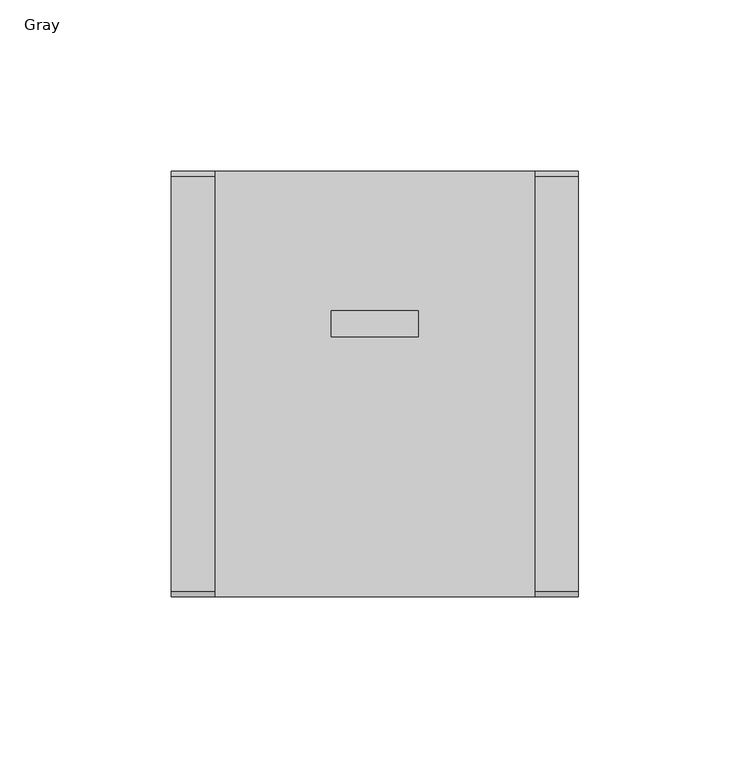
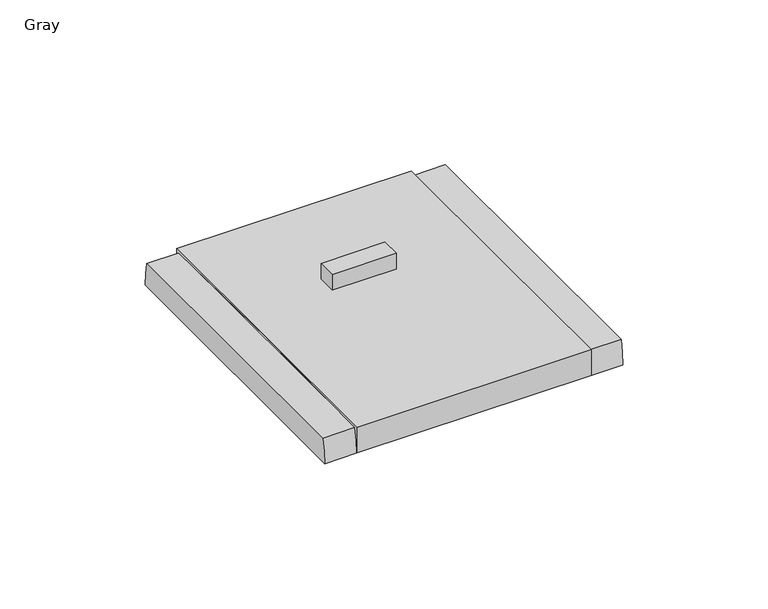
"""IFC4 building model written with IfcOpenShell, lengths in millimetres: proxy geometry, Switch-Pass_And_Seymour-Incandescent_Dimmer : Gray."""

from ifc_helpers import new_model, si_unit, frame, origin, place, context, project, spatial, polyline, circle_curve, outline, extrude, source, transform, mapped, element, save
from ifc_brep_helpers import plane_surface, cylinder_surface, advanced_brep


def gray_b8622a6b(model_context):
    return source(origin(), model_context, "Body", "SolidModel", [
        extrude(outline(polyline([(12.7, 21.336), (12.7, 13.716), (-12.7, 13.716), (-12.7, 21.336), (12.7, 21.336)])), frame((0.0, 0.0, 10.922), z_axis=(0.0, 0.0, 1.0), x_axis=(1.0, 0.0, 0.0)), (0.0, 0.0, 1.0), 6.604),
        advanced_brep(
        [(46.609, 61.976, 0.0), (46.609, 61.976, 10.922), (46.609, 0.0, 10.922), (46.609, 60.6541131, 9.9488894), (46.609, -61.976, 10.922), (46.609, -61.976, 0.0), (46.609, -60.6541131, 9.9488894), (-46.609, -61.976, 0.0), (-46.609, -61.976, 10.922), (-46.609, 0.0, 10.922), (-46.609, -60.6541131, 9.9488894), (-46.609, 61.976, 10.922), (-46.609, 61.976, 0.0), (-46.609, 60.6541131, 9.9488894), (-59.309, -61.976, 0.0), (-59.309, 61.976, 0.0), (59.309, 61.976, 0.0), (59.309, -61.976, 0.0), (59.309, -60.6541131, 9.9488894), (59.309, 60.6541131, 9.9488894), (-59.309, -60.6541131, 9.9488894), (-59.309, 60.6541131, 9.9488894)],
        [
            (0, 1),
            (1, 2),
            (2, 3, circle_curve(frame((46.609, 0.0, -1879.854), z_axis=(-1.0, 0.0, 0.0), x_axis=(0.0, 1.0, 0.0)), 1890.776)),
            (3, 0, circle_curve(frame((46.609, 23.876, 0.0), z_axis=(-1.0, 0.0, 0.0), x_axis=(0.0, 1.0, 0.0)), 38.1)),
            (4, 5),
            (5, 6, circle_curve(frame((46.609, -23.876, 0.0), z_axis=(-1.0, 0.0, 0.0), x_axis=(0.0, 1.0, 0.0)), 38.1)),
            (6, 2, circle_curve(frame((46.609, 0.0, -1879.854), z_axis=(-1.0, 0.0, 0.0), x_axis=(0.0, 1.0, 0.0)), 1890.776)),
            (2, 4),
            (7, 8),
            (8, 9),
            (9, 10, circle_curve(frame((-46.609, 0.0, -1879.854), z_axis=(1.0, 0.0, 0.0), x_axis=(0.0, 1.0, 0.0)), 1890.776)),
            (10, 7, circle_curve(frame((-46.609, -23.876, 0.0), z_axis=(1.0, 0.0, 0.0), x_axis=(0.0, 1.0, 0.0)), 38.1)),
            (11, 12),
            (12, 13, circle_curve(frame((-46.609, 23.876, 0.0), z_axis=(1.0, 0.0, 0.0), x_axis=(0.0, 1.0, 0.0)), 38.1)),
            (13, 9, circle_curve(frame((-46.609, 0.0, -1879.854), z_axis=(1.0, 0.0, 0.0), x_axis=(0.0, 1.0, 0.0)), 1890.776)),
            (9, 11),
            (5, 7),
            (7, 14),
            (14, 15),
            (15, 12),
            (12, 0),
            (0, 16),
            (16, 17),
            (17, 5),
            (1, 11),
            (8, 4),
            (18, 17, circle_curve(frame((59.309, -23.876, 0.0), z_axis=(1.0, 0.0, 0.0), x_axis=(0.0, 1.0, 0.0)), 38.1)),
            (16, 19, circle_curve(frame((59.309, 23.876, 0.0), z_axis=(1.0, 0.0, 0.0), x_axis=(0.0, 1.0, 0.0)), 38.1)),
            (19, 18, circle_curve(frame((59.309, 0.0, -1879.854), z_axis=(1.0, 0.0, 0.0), x_axis=(0.0, 1.0, 0.0)), 1890.776)),
            (20, 21, circle_curve(frame((-59.309, 0.0, -1879.854), z_axis=(-1.0, 0.0, 0.0), x_axis=(0.0, 1.0, 0.0)), 1890.776)),
            (21, 15, circle_curve(frame((-59.309, 23.876, 0.0), z_axis=(-1.0, 0.0, 0.0), x_axis=(0.0, 1.0, 0.0)), 38.1)),
            (14, 20, circle_curve(frame((-59.309, -23.876, 0.0), z_axis=(-1.0, 0.0, 0.0), x_axis=(0.0, 1.0, 0.0)), 38.1)),
            (18, 6),
            (10, 20),
            (3, 19),
            (21, 13),
        ],
        [
            plane_surface(frame((46.609, 61.976, 10.922), z_axis=(1.0, 0.0, 0.0), x_axis=(0.0, 0.0, 1.0))),
            plane_surface(frame((-46.609, 61.976, 10.922), z_axis=(-1.0, 0.0, 0.0), x_axis=(0.0, 0.0, -1.0))),
            plane_surface(frame((46.609, -61.976, 0.0), z_axis=(0.0, 0.0, -1.0), x_axis=(-1.0, 0.0, 0.0))),
            plane_surface(frame((46.609, 61.976, 10.922), z_axis=(0.0, 0.0, 1.0), x_axis=(-1.0, 0.0, 0.0))),
            plane_surface(frame((46.609, 61.976, 0.0), z_axis=(0.0, 1.0, 0.0), x_axis=(-1.0, 0.0, 0.0))),
            plane_surface(frame((46.609, -61.976, 10.922), z_axis=(0.0, -1.0, 0.0), x_axis=(-1.0, 0.0, 0.0))),
            plane_surface(frame((59.309, 14.224, 0.0), z_axis=(1.0, 0.0, 0.0), x_axis=(0.0, 0.0, 1.0))),
            plane_surface(frame((-59.309, 14.224, 0.0), z_axis=(-1.0, 0.0, 0.0), x_axis=(0.0, 0.0, -1.0))),
            cylinder_surface(frame((-59.309, -23.876, 0.0), z_axis=(1.0, 0.0, 0.0), x_axis=(0.0, 1.0, 0.0)), 38.1),
            cylinder_surface(frame((-59.309, 23.876, 0.0), z_axis=(1.0, 0.0, 0.0), x_axis=(0.0, 1.0, 0.0)), 38.1),
            cylinder_surface(frame((-59.309, 0.0, -1879.854), z_axis=(1.0, 0.0, 0.0), x_axis=(0.0, 1.0, 0.0)), 1890.776),
        ],
        [
            (0, [[1, 2, 3, 4]]),
            (0, [[5, 6, 7, 8]]),
            (1, [[9, 10, 11, 12]]),
            (1, [[13, 14, 15, 16]]),
            (2, [[17, 18, 19, 20, 21, 22, 23, 24]]),
            (3, [[25, -16, -10, 26, -8, -2]]),
            (4, [[-1, -21, -13, -25]]),
            (5, [[-5, -26, -9, -17]]),
            (6, [[27, -23, 28, 29]]),
            (7, [[30, 31, -19, 32]]),
            (8, [[-27, 33, -6, -24]]),
            (8, [[-32, -18, -12, 34]]),
            (9, [[-28, -22, -4, 35]]),
            (9, [[-31, 36, -14, -20]]),
            (10, [[-29, -35, -3, -7, -33]]),
            (10, [[-30, -34, -11, -15, -36]]),
        ],
    ),
    ])


if __name__ == "__main__":
    model = new_model("IFC4")
    model_context = context("Model", 3, world=origin())
    ifc_project = project(units=[si_unit("LENGTHUNIT", "METRE", prefix="MILLI")], contexts=[model_context])
    site = spatial("IfcSite", under=ifc_project)
    building = spatial("IfcBuilding", under=site)
    placement = place(None, origin())
    gray_shape = gray_b8622a6b(model_context)
    element("IfcBuildingElementProxy", 1, Name="Switch-Pass_And_Seymour-Incandescent_Dimmer : Gray", ObjectType="Switch-Pass_And_Seymour-Incandescent_Dimmer : Gray", at=placement, inside=building, context=model_context, shape_type="MappedRepresentation", body=[
        mapped(gray_shape, transform((0.0, 0.0, 0.0), x_axis=(1.0, 0.0, 0.0), y_axis=(0.0, 1.0, 0.0), z_axis=(0.0, 0.0, 1.0))),
    ])
    save(model, "model.ifc")
